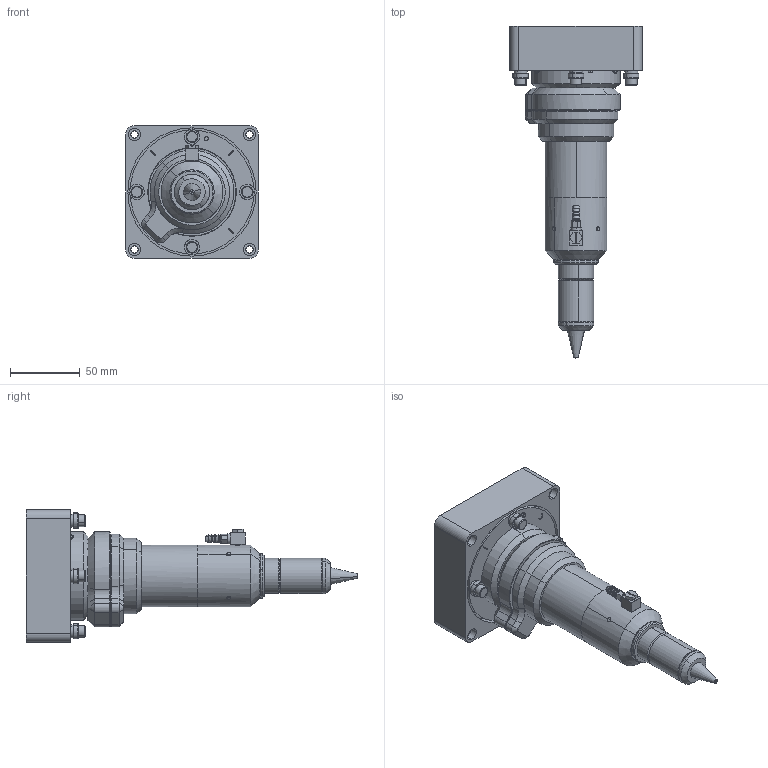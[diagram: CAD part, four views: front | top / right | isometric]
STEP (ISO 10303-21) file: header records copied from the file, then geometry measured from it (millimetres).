
FILE_DESCRIPTION (( 'STEP AP214' ), '1' );
FILE_NAME ('ILH-19-25-095.STEP', '2018-05-15T14:35:34', ( '' ), ( '' ), 'SwSTEP 2.0', 'SolidWorks 2018', '' );
FILE_SCHEMA (( 'AUTOMOTIVE_DESIGN' ));
Length unit declared in the file: inch
Products named in the file (1): ILH-19-25-095
Bounding box: 95.25 x 238.28 x 95.25 mm (x, y, z)
Volume: 580838.3 mm3; surface area: 73710.4 mm2
Topology: 1 solids, 1 shells, 447 faces, 994 edges, 575 vertices
Faces by surface type: cylinder 150, plane 113, torus 71, cone 67, bspline 24, sphere 22
Entity records: 21501 total; most frequent: CARTESIAN_POINT 11481, DIRECTION 2278, ORIENTED_EDGE 1936, EDGE_CURVE 968, AXIS2_PLACEMENT_3D 964, VERTEX_POINT 573, CIRCLE 540, EDGE_LOOP 531
